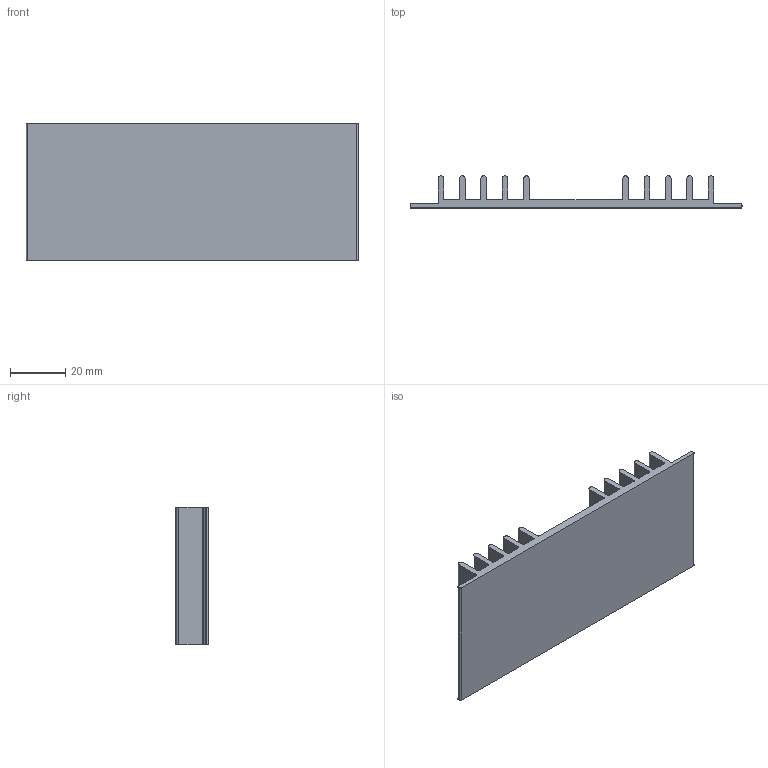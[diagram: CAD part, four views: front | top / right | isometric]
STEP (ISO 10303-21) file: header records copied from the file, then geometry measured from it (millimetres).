
FILE_DESCRIPTION (( 'STEP AP203' ), '1' );
FILE_NAME ('PR 100-50.Step', '2002-10-20T23:09:57', ( 'Wolfgang Müller' ), ( 'DPS' ), 'SwSTEP 2.0', 'SolidWorks 2002264', '' );
FILE_SCHEMA (( 'CONFIG_CONTROL_DESIGN' ));
Length unit declared in the file: millimetre
Products named in the file (1): PR 100-50
Bounding box: 120.5 x 11.7 x 50 mm (x, y, z)
Volume: 25065.8 mm3; surface area: 21365.9 mm2
Topology: 1 solids, 1 shells, 70 faces, 204 edges, 136 vertices
Faces by surface type: plane 36, cylinder 34
Entity records: 2413 total; most frequent: DIRECTION 414, CARTESIAN_POINT 411, ORIENTED_EDGE 408, EDGE_CURVE 204, AXIS2_PLACEMENT_3D 139, VERTEX_POINT 136, LINE 136, VECTOR 136
